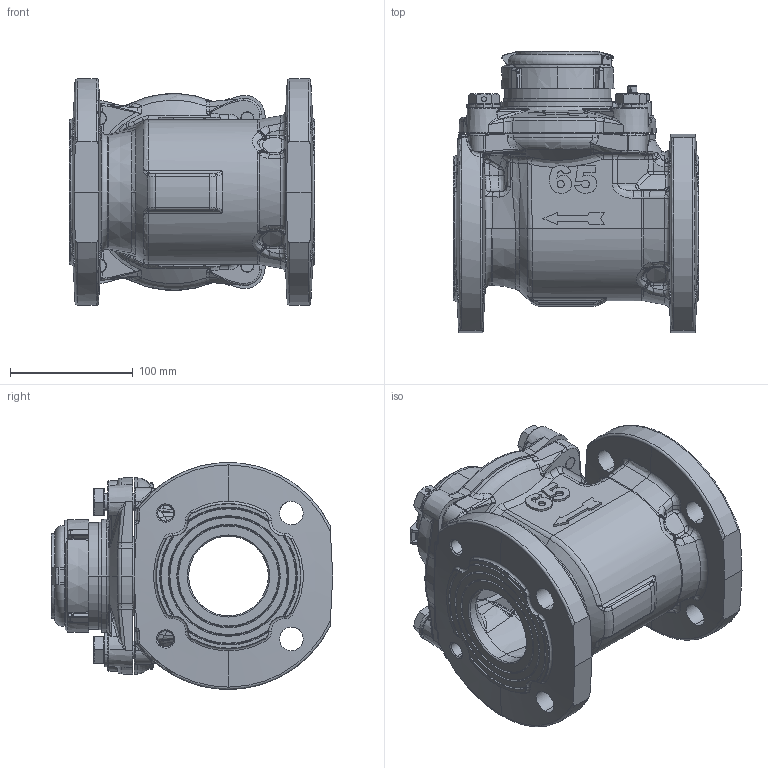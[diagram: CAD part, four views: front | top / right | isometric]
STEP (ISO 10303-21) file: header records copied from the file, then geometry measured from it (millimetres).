
FILE_DESCRIPTION (( 'STEP AP203' ), '1' );
FILE_NAME ('13321009-01,WTII 2.5 ISO m3 EEC.STEP', '2011-05-16T06:16:47', ( 'àøã-ãìéä áò"î' ), ( '' ), 'SwSTEP 2.0', 'SolidWorks 2011', '' );
FILE_SCHEMA (( 'CONFIG_CONTROL_DESIGN' ));
Length unit declared in the file: millimetre
Products named in the file (11): 13321009-01,WTII 2.5 ISO m3 EEC; 25222255-11,Cover WT_WST 2''''-4''''(2 52 222 09 -11)-1; FLAT WASHERS DIN 125 A (ISO 7089)(M14 ( 2 30 266 09 ))-1; 21082110-02,Hex cap screw M14x35 drilled(21082120)-1; Hex cap screws MxL DIN 933(M14x40(21082119 -00))-1; 21082009-21,Regulator cap screw WT-1; 32220055-08,Body WT 2.5''''(3 22 201 09 -08); a,25820329-04,Register cover 19 with plastic lid ARAD-1; p,26710709-07,Lid pin; p,27630309-05,Plastic lid ARAD(hor)-1-1; 25820309-18,Register cover 19-1-1
Assembly tree (13 placements, depth 3):
  13321009-01,WTII 2.5 ISO m3 EEC
    a,25820329-04,Register cover 19 with plastic lid ARAD-1
      25820309-18,Register cover 19-1-1
      p,27630309-05,Plastic lid ARAD(hor)-1-1
      p,26710709-07,Lid pin
    25222255-11,Cover WT_WST 2''''-4''''(2 52 222 09 -11)-1
    FLAT WASHERS DIN 125 A (ISO 7089)(M14 ( 2 30 266 09 ))-1  x2
    21082110-02,Hex cap screw M14x35 drilled(21082120)-1
    Hex cap screws MxL DIN 933(M14x40(21082119 -00))-1  x3
    21082009-21,Regulator cap screw WT-1
    32220055-08,Body WT 2.5''''(3 22 201 09 -08)
Bounding box: 200 x 229.5 x 184.95 mm (x, y, z)
Volume: 1941444 mm3; surface area: 373791.4 mm2
Topology: 12 solids, 12 shells, 1991 faces, 4839 edges, 2864 vertices
Faces by surface type: bspline 689, plane 540, cylinder 349, cone 243, torus 152, sphere 18
Entity records: 84173 total; most frequent: CARTESIAN_POINT 43699, ORIENTED_EDGE 9326, DIRECTION 6651, EDGE_CURVE 4663, VERTEX_POINT 2792, AXIS2_PLACEMENT_3D 2699, EDGE_LOOP 2041, FACE_OUTER_BOUND 1931
